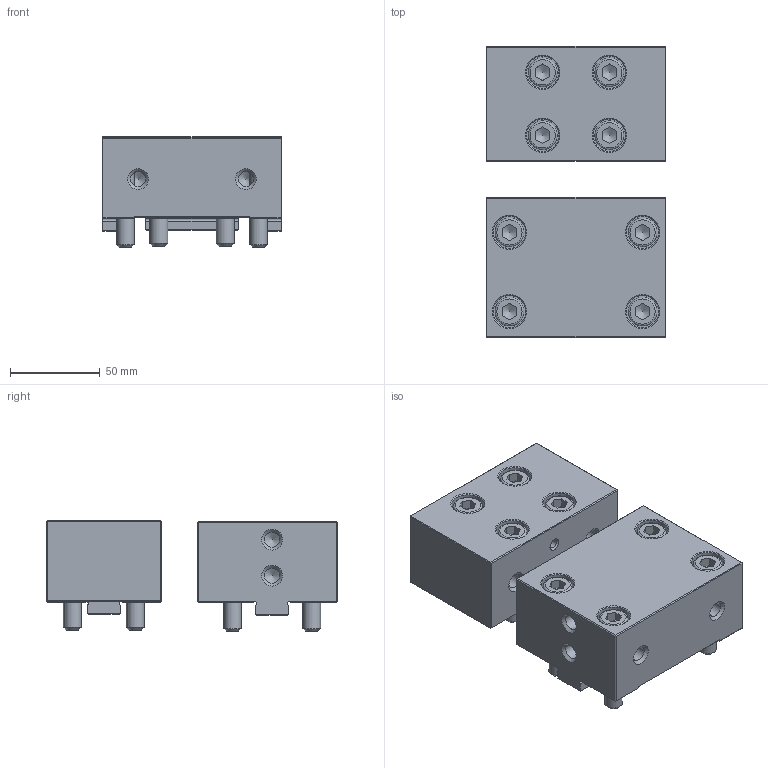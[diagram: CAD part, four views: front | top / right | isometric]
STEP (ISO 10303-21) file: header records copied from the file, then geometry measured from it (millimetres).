
FILE_DESCRIPTION(('STEP AP214'), '1');
FILE_NAME('BB.VS.100.21.040', '', ('UNSPECIFIED'), ('UNSPECIFIED'), 'C3D Converter', 'C3D Toolkit', '');
FILE_SCHEMA(('AUTOMOTIVE_DESIGN { 1 0 10303 214 3 1 1}'));
Length unit declared in the file: millimetre
Products named in the file (1): BB.VS.100.21.040 СБ
Bounding box: 100 x 162 x 61.6 mm (x, y, z)
Volume: 623519.9 mm3; surface area: 100709.7 mm2
Topology: 2 solids, 2 shells, 318 faces, 738 edges, 450 vertices
Faces by surface type: plane 182, cone 68, cylinder 52, torus 16
Full cylindrical faces by diameter (mm): 4.917 x2, 8.376 x12, 10 x8, 11 x8, 16 x8, 18 x8
Entity records: 13497 total; most frequent: CARTESIAN_POINT 4369, DIRECTION 1330, ORIENTED_EDGE 1176, EDGE_CURVE 588, AXIS2_PLACEMENT_3D 497, EDGE_LOOP 480, VERTEX_POINT 428, LINE 336
